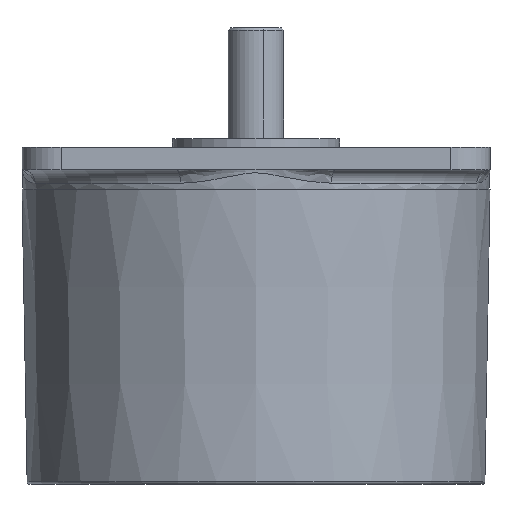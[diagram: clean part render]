
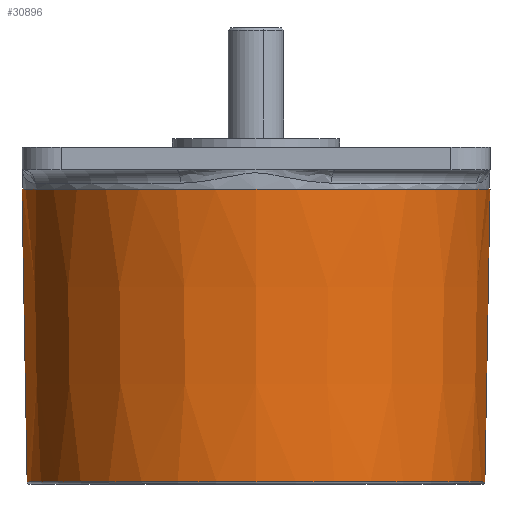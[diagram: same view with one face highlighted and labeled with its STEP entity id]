
A CAD part, front view. The second image highlights one B-rep face of the part: STEP entity #30896.
In plain terms, the highlighted conical face has half-angle 1 degrees and reference radius 42 mm.
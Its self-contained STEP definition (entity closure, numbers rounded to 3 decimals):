
#6738 = VERTEX_POINT ( 'NONE', #20549 ) ;
#6745 = VERTEX_POINT ( 'NONE', #20850 ) ;
#6746 = EDGE_CURVE ( 'NONE', #32322, #6738, #20849, .T. ) ;
#18701 = CARTESIAN_POINT ( 'NONE',  ( 41.083, 0., -52.509 ) ) ;
#19478 = CARTESIAN_POINT ( 'NONE',  ( -41.083, 0., -52.509 ) ) ;
#20549 = CARTESIAN_POINT ( 'NONE',  ( 42., 0., 0. ) ) ;
#20849 = LINE ( 'NONE', #20950, #20904 ) ;
#20850 = CARTESIAN_POINT ( 'NONE',  ( -42., 0., 0. ) ) ;
#20904 = VECTOR ( 'NONE', #20981, 1000. ) ;
#20950 = CARTESIAN_POINT ( 'NONE',  ( 42., 0., 0. ) ) ;
#20981 = DIRECTION ( 'NONE',  ( 0.017, 0., 1. ) ) ;
#27670 = EDGE_CURVE ( 'NONE', #32438, #6745, #39221, .T. ) ;
#30837 = ORIENTED_EDGE ( 'NONE', *, *, #27670, .F. ) ;
#30844 = EDGE_CURVE ( 'NONE', #6745, #6738, #34780, .T. ) ;
#30896 = ADVANCED_FACE ( 'NONE', ( #37247 ), #35151, .T. ) ;
#30897 = EDGE_LOOP ( 'NONE', ( #30837, #30934, #31008, #31002 ) ) ;
#30934 = ORIENTED_EDGE ( 'NONE', *, *, #30942, .T. ) ;
#30942 = EDGE_CURVE ( 'NONE', #32438, #32322, #37316, .T. ) ;
#31002 = ORIENTED_EDGE ( 'NONE', *, *, #30844, .F. ) ;
#31008 = ORIENTED_EDGE ( 'NONE', *, *, #6746, .T. ) ;
#32322 = VERTEX_POINT ( 'NONE', #18701 ) ;
#32438 = VERTEX_POINT ( 'NONE', #19478 ) ;
#34771 = CARTESIAN_POINT ( 'NONE',  ( 0., 0., 0. ) ) ;
#34774 = DIRECTION ( 'NONE',  ( 1., 0., 0. ) ) ;
#34775 = DIRECTION ( 'NONE',  ( 0., 0., 1. ) ) ;
#34780 = CIRCLE ( 'NONE', #34835, 42. ) ;
#34835 = AXIS2_PLACEMENT_3D ( 'NONE', #34771, #34775, #34774 ) ;
#35106 = AXIS2_PLACEMENT_3D ( 'NONE', #35134, #35250, #35273 ) ;
#35134 = CARTESIAN_POINT ( 'NONE',  ( 0., 0., 0. ) ) ;
#35151 = CONICAL_SURFACE ( 'NONE', #35106, 42., 0.017 ) ;
#35250 = DIRECTION ( 'NONE',  ( 0., 0., 1. ) ) ;
#35273 = DIRECTION ( 'NONE',  ( 1., 0., 0. ) ) ;
#37247 = FACE_OUTER_BOUND ( 'NONE', #30897, .T. ) ;
#37314 = CARTESIAN_POINT ( 'NONE',  ( 0., 0., -52.509 ) ) ;
#37316 = CIRCLE ( 'NONE', #37443, 41.083 ) ;
#37429 = DIRECTION ( 'NONE',  ( 0., 0., 1. ) ) ;
#37443 = AXIS2_PLACEMENT_3D ( 'NONE', #37314, #37429, #37479 ) ;
#37479 = DIRECTION ( 'NONE',  ( 1., 0., 0. ) ) ;
#39221 = LINE ( 'NONE', #39301, #39300 ) ;
#39299 = DIRECTION ( 'NONE',  ( -0.017, 0., 1. ) ) ;
#39300 = VECTOR ( 'NONE', #39299, 1000. ) ;
#39301 = CARTESIAN_POINT ( 'NONE',  ( -42., 0., 0. ) ) ;
